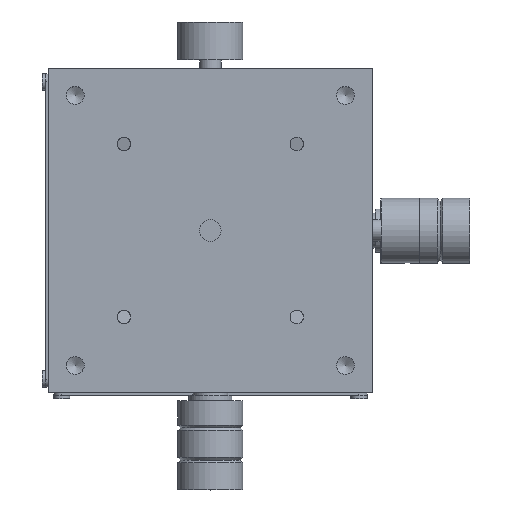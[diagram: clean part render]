
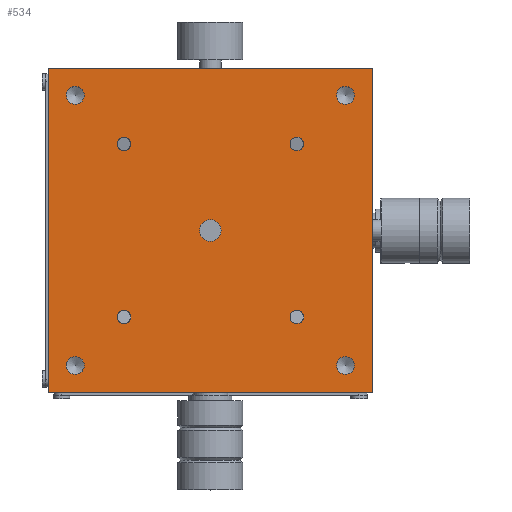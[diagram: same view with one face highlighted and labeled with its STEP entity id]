
A CAD part, top view. The second image highlights one B-rep face of the part: STEP entity #534.
In plain terms, the highlighted planar face has unit normal (0, 0, 1).
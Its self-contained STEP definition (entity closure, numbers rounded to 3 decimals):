
#534 = ADVANCED_FACE( '', ( #1131, #1132, #1133, #1134, #1135, #1136, #1137, #1138, #1139, #1140 ), #1141, .T. );
#1131 = FACE_BOUND( '', #1779, .T. );
#1132 = FACE_BOUND( '', #1780, .T. );
#1133 = FACE_BOUND( '', #1781, .T. );
#1134 = FACE_BOUND( '', #1782, .T. );
#1135 = FACE_BOUND( '', #1783, .T. );
#1136 = FACE_BOUND( '', #1784, .T. );
#1137 = FACE_BOUND( '', #1785, .T. );
#1138 = FACE_BOUND( '', #1786, .T. );
#1139 = FACE_OUTER_BOUND( '', #1787, .T. );
#1140 = FACE_BOUND( '', #1788, .T. );
#1141 = PLANE( '', #1789 );
#1779 = EDGE_LOOP( '', ( #3425 ) );
#1780 = EDGE_LOOP( '', ( #3426 ) );
#1781 = EDGE_LOOP( '', ( #3427 ) );
#1782 = EDGE_LOOP( '', ( #3428 ) );
#1783 = EDGE_LOOP( '', ( #3429 ) );
#1784 = EDGE_LOOP( '', ( #3430 ) );
#1785 = EDGE_LOOP( '', ( #3431 ) );
#1786 = EDGE_LOOP( '', ( #3432 ) );
#1787 = EDGE_LOOP( '', ( #3433, #3434, #3435, #3436 ) );
#1788 = EDGE_LOOP( '', ( #3437 ) );
#1789 = AXIS2_PLACEMENT_3D( '', #3438, #3439, #3440 );
#3425 = ORIENTED_EDGE( '', *, *, #3974, .T. );
#3426 = ORIENTED_EDGE( '', *, *, #3971, .T. );
#3427 = ORIENTED_EDGE( '', *, *, #3968, .T. );
#3428 = ORIENTED_EDGE( '', *, *, #3945, .T. );
#3429 = ORIENTED_EDGE( '', *, *, #3944, .T. );
#3430 = ORIENTED_EDGE( '', *, *, #4034, .T. );
#3431 = ORIENTED_EDGE( '', *, *, #4035, .T. );
#3432 = ORIENTED_EDGE( '', *, *, #4029, .T. );
#3433 = ORIENTED_EDGE( '', *, *, #4007, .F. );
#3434 = ORIENTED_EDGE( '', *, *, #4013, .F. );
#3435 = ORIENTED_EDGE( '', *, *, #3990, .F. );
#3436 = ORIENTED_EDGE( '', *, *, #3983, .F. );
#3437 = ORIENTED_EDGE( '', *, *, #4032, .T. );
#3438 = CARTESIAN_POINT( '', ( 0., 0., 40. ) );
#3439 = DIRECTION( '', ( 0., 0., 1. ) );
#3440 = DIRECTION( '', ( 0., 1., 0. ) );
#3944 = EDGE_CURVE( '', #4712, #4712, #4713, .T. );
#3945 = EDGE_CURVE( '', #4714, #4714, #4715, .T. );
#3968 = EDGE_CURVE( '', #4760, #4760, #4761, .T. );
#3971 = EDGE_CURVE( '', #4766, #4766, #4767, .T. );
#3974 = EDGE_CURVE( '', #4772, #4772, #4773, .T. );
#3983 = EDGE_CURVE( '', #4786, #4788, #4789, .T. );
#3990 = EDGE_CURVE( '', #4788, #4799, #4800, .T. );
#4007 = EDGE_CURVE( '', #4829, #4786, #4832, .T. );
#4013 = EDGE_CURVE( '', #4799, #4829, #4840, .T. );
#4029 = EDGE_CURVE( '', #4864, #4864, #4865, .T. );
#4032 = EDGE_CURVE( '', #4868, #4868, #4869, .F. );
#4034 = EDGE_CURVE( '', #4871, #4871, #4872, .T. );
#4035 = EDGE_CURVE( '', #4873, #4873, #4874, .T. );
#4712 = VERTEX_POINT( '', #6491 );
#4713 = CIRCLE( '', #6492, 1.65 );
#4714 = VERTEX_POINT( '', #6493 );
#4715 = CIRCLE( '', #6494, 1.25 );
#4760 = VERTEX_POINT( '', #6600 );
#4761 = CIRCLE( '', #6601, 1.25 );
#4766 = VERTEX_POINT( '', #6643 );
#4767 = CIRCLE( '', #6644, 1.25 );
#4772 = VERTEX_POINT( '', #6688 );
#4773 = CIRCLE( '', #6689, 1.25 );
#4786 = VERTEX_POINT( '', #6707 );
#4788 = VERTEX_POINT( '', #6710 );
#4789 = LINE( '', #6711, #6712 );
#4799 = VERTEX_POINT( '', #6731 );
#4800 = LINE( '', #6732, #6733 );
#4829 = VERTEX_POINT( '', #6766 );
#4832 = LINE( '', #6770, #6771 );
#4840 = LINE( '', #6787, #6788 );
#4864 = VERTEX_POINT( '', #6820 );
#4865 = CIRCLE( '', #6821, 1.65 );
#4868 = VERTEX_POINT( '', #6826 );
#4869 = CIRCLE( '', #6827, 2. );
#4871 = VERTEX_POINT( '', #6830 );
#4872 = CIRCLE( '', #6831, 1.65 );
#4873 = VERTEX_POINT( '', #6832 );
#4874 = CIRCLE( '', #6833, 1.65 );
#6491 = CARTESIAN_POINT( '', ( 26.65, -25., 40. ) );
#6492 = AXIS2_PLACEMENT_3D( '', #7506, #7507, #7508 );
#6493 = CARTESIAN_POINT( '', ( -14.75, -16., 40. ) );
#6494 = AXIS2_PLACEMENT_3D( '', #7509, #7510, #7511 );
#6600 = CARTESIAN_POINT( '', ( -14.75, 16., 40. ) );
#6601 = AXIS2_PLACEMENT_3D( '', #7545, #7546, #7547 );
#6643 = CARTESIAN_POINT( '', ( 17.25, 16., 40. ) );
#6644 = AXIS2_PLACEMENT_3D( '', #7551, #7552, #7553 );
#6688 = CARTESIAN_POINT( '', ( 17.25, -16., 40. ) );
#6689 = AXIS2_PLACEMENT_3D( '', #7557, #7558, #7559 );
#6707 = CARTESIAN_POINT( '', ( 30., -30., 40. ) );
#6710 = CARTESIAN_POINT( '', ( -30., -30., 40. ) );
#6711 = CARTESIAN_POINT( '', ( 0., -30., 40. ) );
#6712 = VECTOR( '', #7572, 1000. );
#6731 = CARTESIAN_POINT( '', ( -30., 30., 40. ) );
#6732 = CARTESIAN_POINT( '', ( -30., 0., 40. ) );
#6733 = VECTOR( '', #7579, 1000. );
#6766 = CARTESIAN_POINT( '', ( 30., 30., 40. ) );
#6770 = CARTESIAN_POINT( '', ( 30., 0., 40. ) );
#6771 = VECTOR( '', #7618, 1000. );
#6787 = CARTESIAN_POINT( '', ( 0., 30., 40. ) );
#6788 = VECTOR( '', #7624, 1000. );
#6820 = CARTESIAN_POINT( '', ( -23.35, -25., 40. ) );
#6821 = AXIS2_PLACEMENT_3D( '', #7654, #7655, #7656 );
#6826 = CARTESIAN_POINT( '', ( 2., 0., 40. ) );
#6827 = AXIS2_PLACEMENT_3D( '', #7659, #7660, #7661 );
#6830 = CARTESIAN_POINT( '', ( 26.65, 25., 40. ) );
#6831 = AXIS2_PLACEMENT_3D( '', #7663, #7664, #7665 );
#6832 = CARTESIAN_POINT( '', ( -23.35, 25., 40. ) );
#6833 = AXIS2_PLACEMENT_3D( '', #7666, #7667, #7668 );
#7506 = CARTESIAN_POINT( '', ( 25., -25., 40. ) );
#7507 = DIRECTION( '', ( 0., 0., -1. ) );
#7508 = DIRECTION( '', ( 1., 0., 0. ) );
#7509 = CARTESIAN_POINT( '', ( -16., -16., 40. ) );
#7510 = DIRECTION( '', ( 0., 0., -1. ) );
#7511 = DIRECTION( '', ( 1., 0., 0. ) );
#7545 = CARTESIAN_POINT( '', ( -16., 16., 40. ) );
#7546 = DIRECTION( '', ( 0., 0., -1. ) );
#7547 = DIRECTION( '', ( 1., 0., 0. ) );
#7551 = CARTESIAN_POINT( '', ( 16., 16., 40. ) );
#7552 = DIRECTION( '', ( 0., 0., -1. ) );
#7553 = DIRECTION( '', ( 1., 0., 0. ) );
#7557 = CARTESIAN_POINT( '', ( 16., -16., 40. ) );
#7558 = DIRECTION( '', ( 0., 0., -1. ) );
#7559 = DIRECTION( '', ( 1., 0., 0. ) );
#7572 = DIRECTION( '', ( -1., 0., 0. ) );
#7579 = DIRECTION( '', ( 0., 1., 0. ) );
#7618 = DIRECTION( '', ( 0., -1., 0. ) );
#7624 = DIRECTION( '', ( 1., 0., 0. ) );
#7654 = CARTESIAN_POINT( '', ( -25., -25., 40. ) );
#7655 = DIRECTION( '', ( 0., 0., -1. ) );
#7656 = DIRECTION( '', ( 1., 0., 0. ) );
#7659 = CARTESIAN_POINT( '', ( 0., 0., 40. ) );
#7660 = DIRECTION( '', ( 0., 0., 1. ) );
#7661 = DIRECTION( '', ( 1., 0., 0. ) );
#7663 = CARTESIAN_POINT( '', ( 25., 25., 40. ) );
#7664 = DIRECTION( '', ( 0., 0., -1. ) );
#7665 = DIRECTION( '', ( 1., 0., 0. ) );
#7666 = CARTESIAN_POINT( '', ( -25., 25., 40. ) );
#7667 = DIRECTION( '', ( 0., 0., -1. ) );
#7668 = DIRECTION( '', ( 1., 0., 0. ) );
